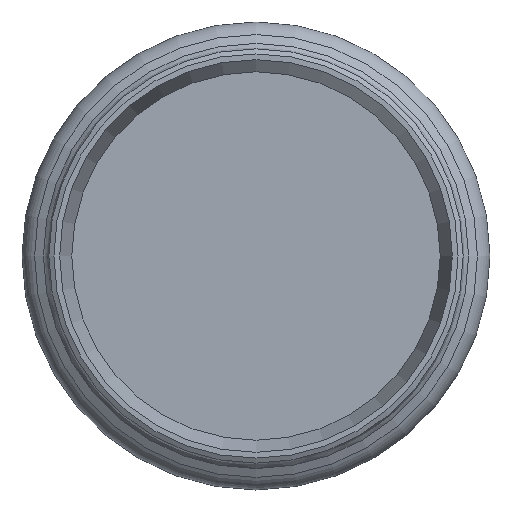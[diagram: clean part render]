
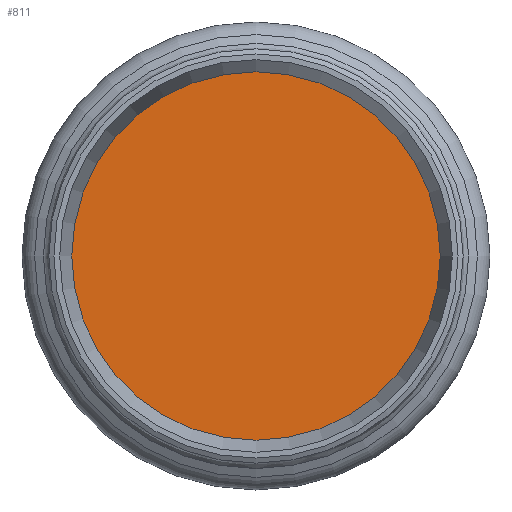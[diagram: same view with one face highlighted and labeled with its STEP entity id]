
A CAD part, left-side view. The second image highlights one B-rep face of the part: STEP entity #811.
In plain terms, the highlighted planar face has unit normal (-1, 0, 0) as drawn and (0, 0, 1) by its records, which use the part's own axes.
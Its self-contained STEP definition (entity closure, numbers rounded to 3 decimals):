
#780=CARTESIAN_POINT('',(27.0,0.,1.5));
#781=VERTEX_POINT('',#780);
#782=CARTESIAN_POINT('',(0.0,0.0,1.5));
#783=DIRECTION('',(0.0,0.0,-1.0));
#784=DIRECTION('',(-1.0,0.0,0.0));
#785=AXIS2_PLACEMENT_3D('',#782,#783,#784);
#786=CIRCLE('',#785,27.0);
#787=EDGE_CURVE('',#781,#781,#786,.T.);
#803=CARTESIAN_POINT('',(0.0,0.0,1.5));
#804=DIRECTION('',(0.0,0.0,-1.0));
#805=DIRECTION('',(-1.0,0.0,0.0));
#806=AXIS2_PLACEMENT_3D('',#803,#804,#805);
#807=PLANE('',#806);
#808=ORIENTED_EDGE('',*,*,#787,.F.);
#809=EDGE_LOOP('',(#808));
#810=FACE_OUTER_BOUND('',#809,.T.);
#811=ADVANCED_FACE('',(#810),#807,.F.);
